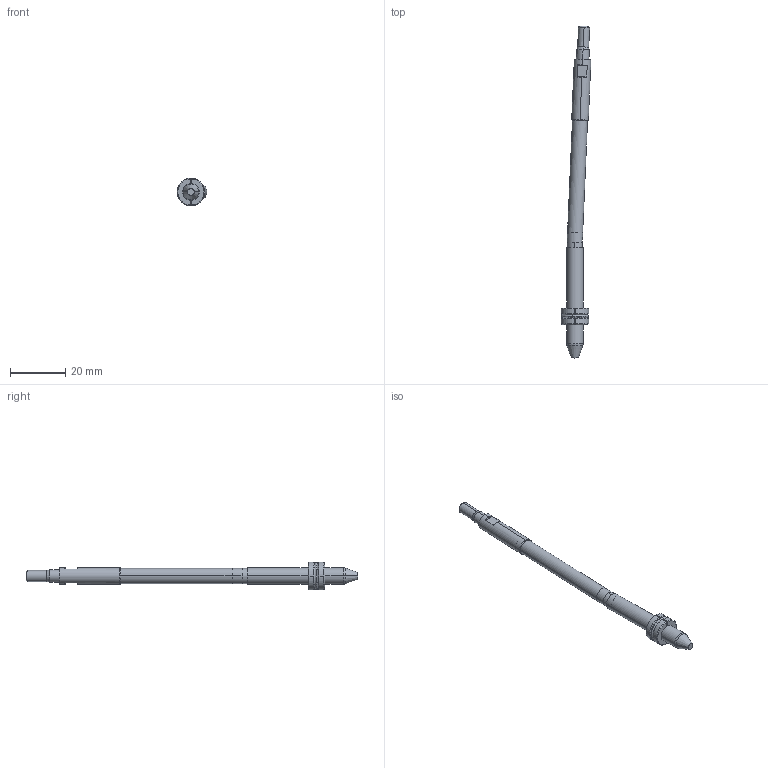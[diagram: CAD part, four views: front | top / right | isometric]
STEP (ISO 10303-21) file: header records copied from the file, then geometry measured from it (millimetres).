
FILE_DESCRIPTION (( 'STEP AP214' ), '1' );
FILE_NAME ('WP060030-EJE 2,5°.STEP', '2021-03-19T15:10:20', ( '' ), ( '' ), 'SwSTEP 2.0', 'SolidWorks 2019', '' );
FILE_SCHEMA (( 'AUTOMOTIVE_DESIGN' ));
Length unit declared in the file: millimetre
Products named in the file (6): WEB-001-9WP060030-1; WEB-006-9WP060030-6; WEB-007-9WP060030-F_WP060030-F-ON 2,5ø; WEB-008-JUNTA-JT7X1X9; WP060030-EJE 2,5°; WEB-002-9WP060030-2
Assembly tree (5 placements, depth 2):
  WP060030-EJE 2,5°
    WEB-001-9WP060030-1
    WEB-007-9WP060030-F_WP060030-F-ON 2,5ø
    WEB-002-9WP060030-2
    WEB-006-9WP060030-6
    WEB-008-JUNTA-JT7X1X9
Bounding box: 10.8 x 119.8 x 9.99 mm (x, y, z)
Volume: 3174 mm3; surface area: 2920.6 mm2
Topology: 6 solids, 6 shells, 112 faces, 262 edges, 164 vertices
Faces by surface type: cylinder 36, cone 28, plane 28, torus 20
Entity records: 3723 total; most frequent: CARTESIAN_POINT 714, DIRECTION 598, ORIENTED_EDGE 524, EDGE_CURVE 262, AXIS2_PLACEMENT_3D 256, VERTEX_POINT 164, CIRCLE 136, EDGE_LOOP 116
